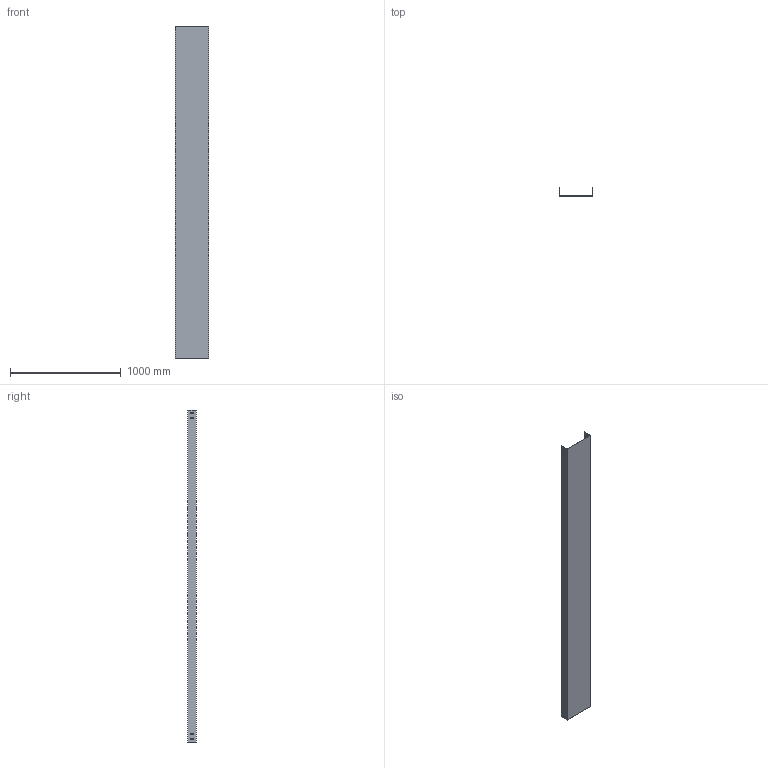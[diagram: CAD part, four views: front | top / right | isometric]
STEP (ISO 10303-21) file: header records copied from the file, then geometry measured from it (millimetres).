
FILE_DESCRIPTION (( 'STEP AP214' ), '1' );
FILE_NAME ('CC_307.step', '2025-07-16T09:04:25', ( '' ), ( '' ), 'SwSTEP 2.0', 'SolidWorks 2023', '' );
FILE_SCHEMA (( 'AUTOMOTIVE_DESIGN' ));
Length unit declared in the file: millimetre
Products named in the file (1): CC_307
Bounding box: 300 x 75 x 3000 mm (x, y, z)
Volume: 2009820 mm3; surface area: 2690917 mm2
Topology: 1 solids, 1 shells, 74 faces, 216 edges, 144 vertices
Faces by surface type: plane 74
Entity records: 2487 total; most frequent: CARTESIAN_POINT 435, ORIENTED_EDGE 432, DIRECTION 366, EDGE_CURVE 216, VECTOR 216, LINE 216, VERTEX_POINT 144, EDGE_LOOP 106
